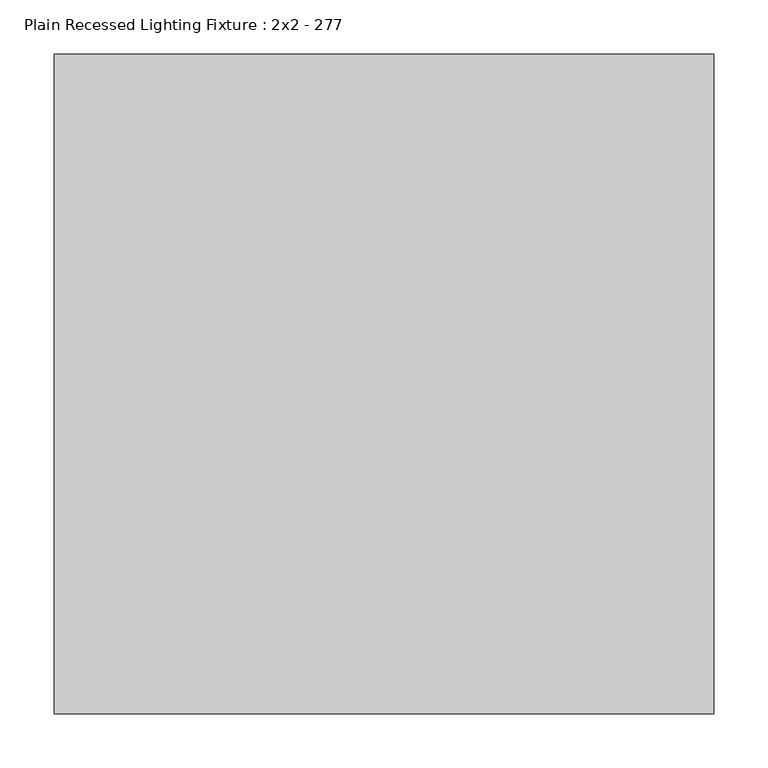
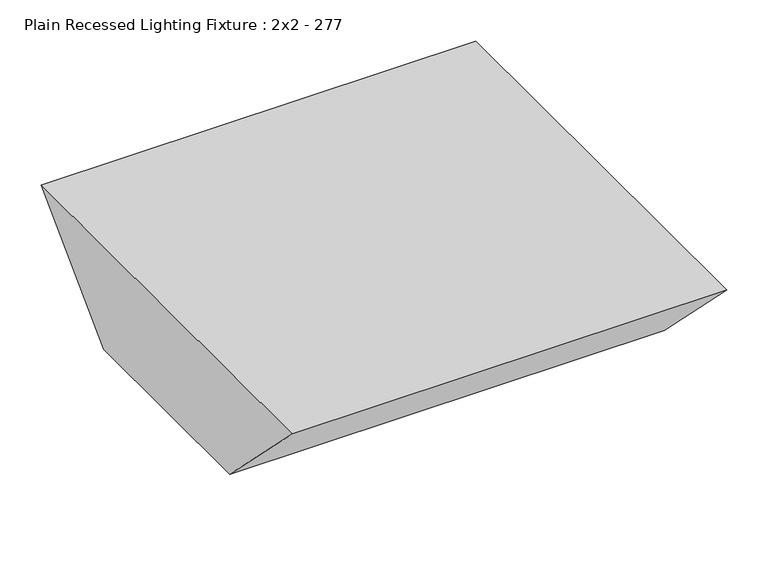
"""IFC4 building model written with IfcOpenShell, lengths in millimetres: light fixture geometry, Plain Recessed Lighting Fixture : 2x2 - 277."""

from ifc_helpers import new_model, si_unit, frame, origin, place, context, project, spatial, polyline, outline, extrude, source, transform, mapped, element, save


def plain_recessed_lighting_fixture_2x2_277_de26a1e5(model_context):
    return source(origin(), model_context, "Body", "SweptSolid", [
        extrude(outline(polyline([(-610.0, 0.0), (0.0, 0.0), (-152.0, -152.0), (-458.0, -152.0), (-610.0, 0.0)])), frame((0.0, 0.0, 0.0), z_axis=(1.0, 0.0, 0.0), x_axis=(0.0, 1.0, 0.0)), (0.0, 0.0, 1.0), 610.0),
    ])


if __name__ == "__main__":
    model = new_model("IFC4")
    model_context = context("Model", 3, world=origin())
    ifc_project = project(units=[si_unit("LENGTHUNIT", "METRE", prefix="MILLI")], contexts=[model_context])
    site = spatial("IfcSite", under=ifc_project)
    building = spatial("IfcBuilding", under=site)
    placement = place(None, origin())
    plain_recessed_lighting_fixture_2x2_277_shape = plain_recessed_lighting_fixture_2x2_277_de26a1e5(model_context)
    element("IfcLightFixture", 1, ObjectType="Plain Recessed Lighting Fixture : 2x2 - 277", at=placement, inside=building, context=model_context, shape_type="MappedRepresentation", body=[
        mapped(plain_recessed_lighting_fixture_2x2_277_shape, transform((0.0, 0.0, 0.0), x_axis=(1.0, 0.0, 0.0), y_axis=(0.0, 1.0, 0.0), z_axis=(0.0, 0.0, 1.0))),
    ])
    save(model, "model.ifc")
